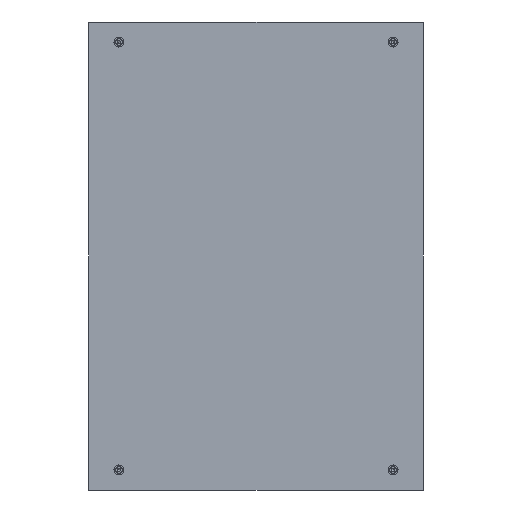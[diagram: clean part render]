
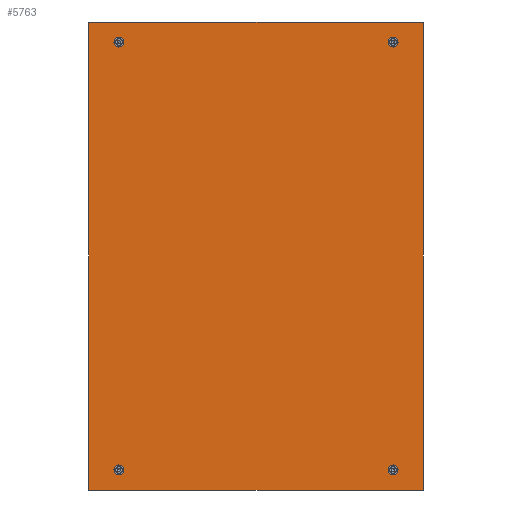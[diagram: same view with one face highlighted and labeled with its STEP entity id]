
A CAD part, left-side view. The second image highlights one B-rep face of the part: STEP entity #5763.
In plain terms, the highlighted planar face has unit normal (-1, 0, 0).
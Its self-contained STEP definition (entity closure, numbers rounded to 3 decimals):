
#471=CIRCLE('',#7638,5.125);
#473=CIRCLE('',#7641,5.125);
#475=CIRCLE('',#7644,5.125);
#476=CIRCLE('',#7673,5.125);
#1659=ORIENTED_EDGE('',*,*,#2655,.T.);
#1660=ORIENTED_EDGE('',*,*,#2656,.T.);
#1661=ORIENTED_EDGE('',*,*,#2657,.T.);
#1662=ORIENTED_EDGE('',*,*,#2658,.T.);
#1663=ORIENTED_EDGE('',*,*,#2553,.F.);
#1664=ORIENTED_EDGE('',*,*,#2555,.F.);
#1665=ORIENTED_EDGE('',*,*,#2557,.F.);
#1666=ORIENTED_EDGE('',*,*,#2659,.F.);
#2553=EDGE_CURVE('',#3155,#3155,#471,.T.);
#2555=EDGE_CURVE('',#3157,#3157,#473,.T.);
#2557=EDGE_CURVE('',#3159,#3159,#475,.T.);
#2655=EDGE_CURVE('',#3234,#3235,#3784,.T.);
#2656=EDGE_CURVE('',#3235,#3236,#3785,.T.);
#2657=EDGE_CURVE('',#3236,#3237,#3786,.T.);
#2658=EDGE_CURVE('',#3237,#3234,#3787,.T.);
#2659=EDGE_CURVE('',#3238,#3238,#476,.T.);
#3155=VERTEX_POINT('',#10604);
#3157=VERTEX_POINT('',#10609);
#3159=VERTEX_POINT('',#10614);
#3234=VERTEX_POINT('',#10815);
#3235=VERTEX_POINT('',#10816);
#3236=VERTEX_POINT('',#10818);
#3237=VERTEX_POINT('',#10820);
#3238=VERTEX_POINT('',#10823);
#3784=LINE('',#10814,#4336);
#3785=LINE('',#10817,#4337);
#3786=LINE('',#10819,#4338);
#3787=LINE('',#10821,#4339);
#4336=VECTOR('',#9089,1000.);
#4337=VECTOR('',#9090,1000.);
#4338=VECTOR('',#9091,1000.);
#4339=VECTOR('',#9092,1000.);
#4742=EDGE_LOOP('',(#1659,#1660,#1661,#1662));
#4743=EDGE_LOOP('',(#1663));
#4744=EDGE_LOOP('',(#1664));
#4745=EDGE_LOOP('',(#1665));
#4746=EDGE_LOOP('',(#1666));
#5164=FACE_BOUND('',#4742,.T.);
#5165=FACE_BOUND('',#4743,.T.);
#5166=FACE_BOUND('',#4744,.T.);
#5167=FACE_BOUND('',#4745,.T.);
#5168=FACE_BOUND('',#4746,.T.);
#5458=PLANE('',#7672);
#5763=ADVANCED_FACE('',(#5164,#5165,#5166,#5167,#5168),#5458,.T.);
#7638=AXIS2_PLACEMENT_3D('',#10603,#8922,#8923);
#7641=AXIS2_PLACEMENT_3D('',#10608,#8928,#8929);
#7644=AXIS2_PLACEMENT_3D('',#10613,#8934,#8935);
#7672=AXIS2_PLACEMENT_3D('',#10813,#9087,#9088);
#7673=AXIS2_PLACEMENT_3D('',#10822,#9093,#9094);
#8922=DIRECTION('',(-1.,0.,0.));
#8923=DIRECTION('',(0.,-1.,0.));
#8928=DIRECTION('',(-1.,0.,0.));
#8929=DIRECTION('',(0.,-1.,0.));
#8934=DIRECTION('',(-1.,0.,0.));
#8935=DIRECTION('',(0.,-1.,0.));
#9087=DIRECTION('',(-1.,0.,0.));
#9088=DIRECTION('',(0.,-1.,0.));
#9089=DIRECTION('',(0.,0.,1.));
#9090=DIRECTION('',(0.,1.,0.));
#9091=DIRECTION('',(0.,0.,-1.));
#9092=DIRECTION('',(0.,-1.,0.));
#9093=DIRECTION('',(-1.,0.,0.));
#9094=DIRECTION('',(0.,-1.,0.));
#10603=CARTESIAN_POINT('',(-1.2,205.,-320.));
#10604=CARTESIAN_POINT('',(-1.2,199.875,-320.));
#10608=CARTESIAN_POINT('',(-1.2,205.,320.));
#10609=CARTESIAN_POINT('',(-1.2,199.875,320.));
#10613=CARTESIAN_POINT('',(-1.2,-205.,-320.));
#10614=CARTESIAN_POINT('',(-1.2,-210.125,-320.));
#10813=CARTESIAN_POINT('',(-1.2,0.,0.));
#10814=CARTESIAN_POINT('',(-1.2,-250.,0.));
#10815=CARTESIAN_POINT('',(-1.2,-250.,-350.));
#10816=CARTESIAN_POINT('',(-1.2,-250.,350.));
#10817=CARTESIAN_POINT('',(-1.2,0.,350.));
#10818=CARTESIAN_POINT('',(-1.2,250.,350.));
#10819=CARTESIAN_POINT('',(-1.2,250.,0.));
#10820=CARTESIAN_POINT('',(-1.2,250.,-350.));
#10821=CARTESIAN_POINT('',(-1.2,0.,-350.));
#10822=CARTESIAN_POINT('',(-1.2,-205.,320.));
#10823=CARTESIAN_POINT('',(-1.2,-210.125,320.));
